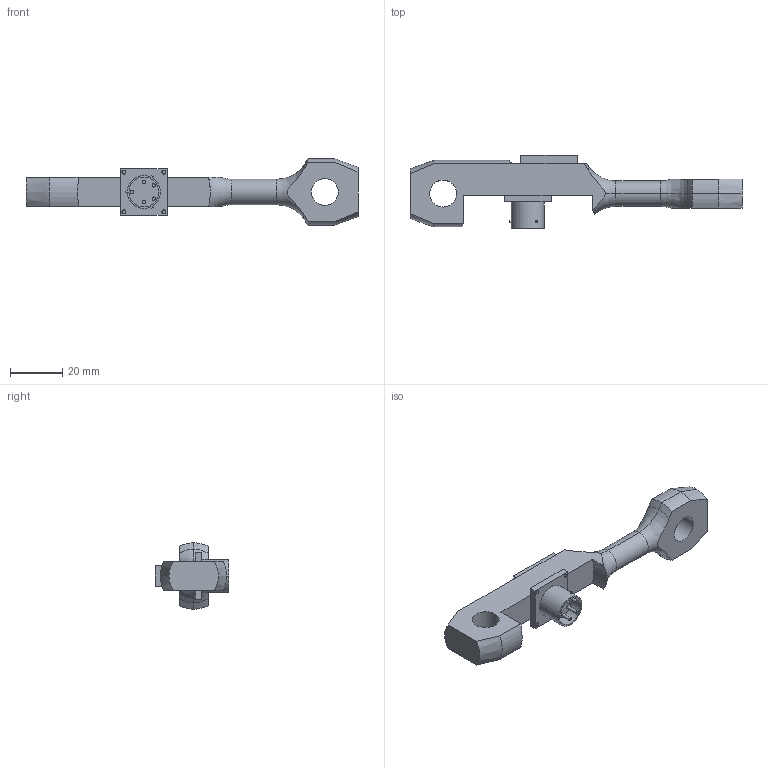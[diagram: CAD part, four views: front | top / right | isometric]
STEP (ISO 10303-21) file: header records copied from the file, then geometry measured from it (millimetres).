
FILE_DESCRIPTION(('starvars output'),'1');
FILE_NAME('cv20240401070501000003119.stp','07:05:01 2024/04/01',('Thomas Industrial Network Germany GmbH'),(' '),'Spatial InterOp 3D',' ',' ');
FILE_SCHEMA(('AP242_MANAGED_MODEL_BASED_3D_ENGINEERING_MIM_LF {1 0 10303 442 2 1 4}'));
Length unit declared in the file: millimetre
Products named in the file (1): 1
Bounding box: 127 x 27.93 x 25.4 mm (x, y, z)
Volume: 20934 mm3; surface area: 8715.9 mm2
Topology: 1 solids, 1 shells, 107 faces, 245 edges, 158 vertices
Faces by surface type: cylinder 53, plane 39, cone 11, torus 4
Entity records: 4664 total; most frequent: CARTESIAN_POINT 1332, DIRECTION 534, ORIENTED_EDGE 490, EDGE_CURVE 245, AXIS2_PLACEMENT_3D 215, VERTEX_POINT 158, EDGE_LOOP 129, STYLED_ITEM 108
